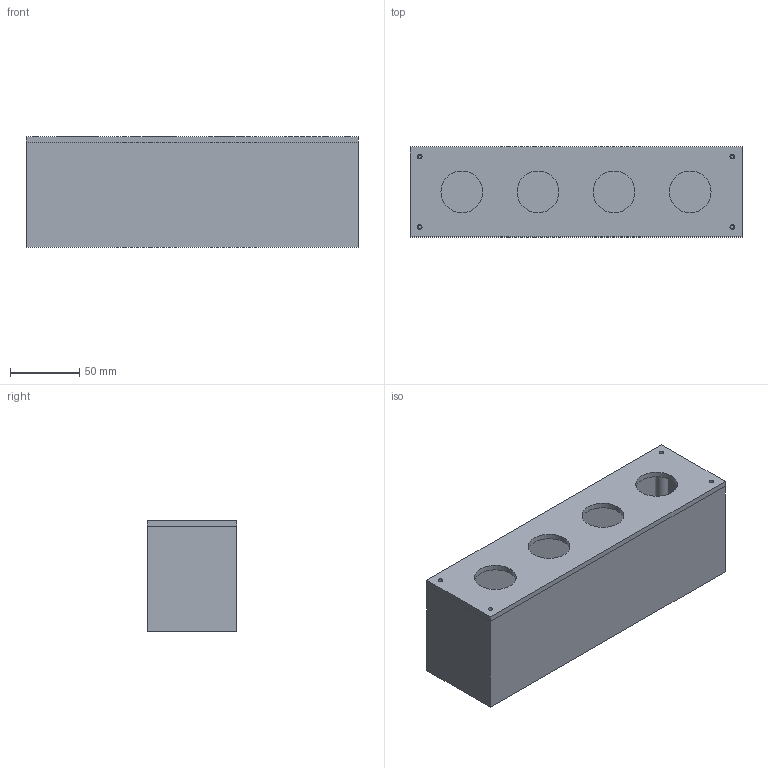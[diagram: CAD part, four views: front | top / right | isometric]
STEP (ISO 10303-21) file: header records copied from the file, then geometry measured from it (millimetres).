
FILE_DESCRIPTION(('Open CASCADE Model'),'2;1');
FILE_NAME('Open CASCADE Shape Model','2026-10-21T17:23:58',('Author'),( 'Open CASCADE'),'Open CASCADE STEP processor 7.9','Open CASCADE 7.9' ,'Unknown');
FILE_SCHEMA(('AUTOMOTIVE_DESIGN { 1 0 10303 214 1 1 1 1 }'));
Length unit declared in the file: millimetre
Products named in the file (3): P09_illustrative; keypad_body_0; keypad_top_1
Assembly tree (2 placements, depth 2):
  P09_illustrative
    keypad_body_0
    keypad_top_1
Bounding box: 240 x 65 x 80 mm (x, y, z)
Volume: 246175.2 mm3; surface area: 153088.2 mm2
Topology: 2 solids, 2 shells, 57 faces, 132 edges, 88 vertices
Faces by surface type: plane 37, cylinder 20
Full cylindrical faces by diameter (mm): 2.5 x4, 3.4 x4, 30.2 x4
Entity records: 3524 total; most frequent: CARTESIAN_POINT 712, DIRECTION 528, LINE 316, VECTOR 316, ORIENTED_EDGE 264, PCURVE 264, DEFINITIONAL_REPRESENTATION 264, EDGE_CURVE 132
